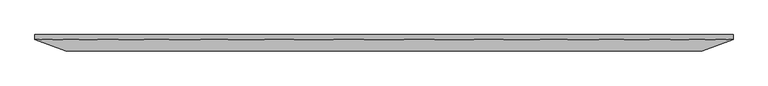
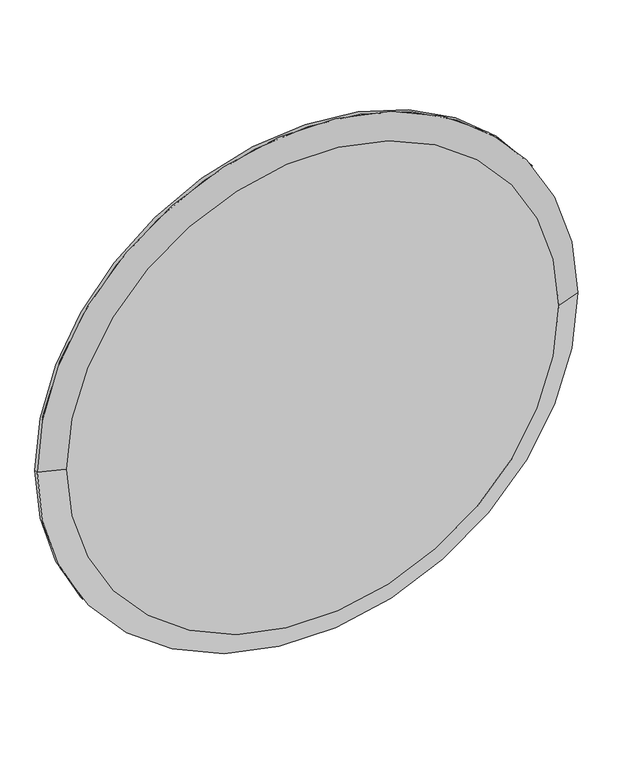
"""IFC4 building model written with IfcOpenShell, lengths in millimetres: proxy geometry, GRADIENT^TABLE 1_OCTAGON LEGS-WORKSURFACE."""

from ifc_helpers import new_model, si_unit, frame, origin, place, context, project, spatial, polyline, circle_curve, source, transform, mapped, element, save
from ifc_brep_helpers import plane_surface, cylinder_surface, revolved_surface, advanced_brep


def generic_models_93175ff0(model_context):
    return source(origin(), model_context, "Body", "AdvancedBrep", [
        advanced_brep(
        [(723.9, 733.425, 0.0), (723.9, 742.95, 0.0), (-647.7, 742.95, 0.0), (-647.7, 733.425, 0.0), (-586.6373144, 711.2, 0.0), (662.8373144, 711.2, 0.0)],
        [
            (0, 1),
            (1, 2, circle_curve(frame((38.1, 742.95, 0.0), z_axis=(0.0, -1.0, 0.0), x_axis=(1.0, 0.0, 0.0)), 685.8)),
            (2, 3),
            (3, 0, circle_curve(frame((38.1, 733.425, 0.0), z_axis=(0.0, 1.0, 0.0), x_axis=(1.0, 0.0, 0.0)), 685.8)),
            (4, 3),
            (3, 0, circle_curve(frame((38.1, 733.425, 0.0), z_axis=(0.0, -1.0, 0.0), x_axis=(1.0, 0.0, 0.0)), 685.8)),
            (0, 5),
            (5, 4, circle_curve(frame((38.1, 711.2, 0.0), z_axis=(0.0, 1.0, 0.0), x_axis=(1.0, 0.0, 0.0)), 624.7373144)),
            (4, 5, circle_curve(frame((38.1, 711.2, 0.0), z_axis=(0.0, 1.0, 0.0), x_axis=(-1.0, 0.0, 0.0)), 624.7373144)),
            (2, 1, circle_curve(frame((38.1, 742.95, 0.0), z_axis=(0.0, -1.0, 0.0), x_axis=(1.0, 0.0, 0.0)), 685.8)),
        ],
        [
            cylinder_surface(frame((38.1, 711.2, 0.0), z_axis=(0.0, 1.0, 0.0), x_axis=(1.0, 0.0, 0.0)), 685.8),
            revolved_surface(polyline([(-586.6373143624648, 711.2, 0.0), (-647.7, 733.425, 0.0)]), (38.1, 483.8142133, 0.0), (0.0, 1.0, 0.0)),
            plane_surface(frame((38.1, 711.2, 0.0), z_axis=(0.0, -1.0, 0.0), x_axis=(0.0, 0.0, 1.0))),
            plane_surface(frame((38.1, 742.95, 0.0), z_axis=(0.0, 1.0, 0.0), x_axis=(0.0, 0.0, 1.0))),
        ],
        [
            (0, [[1, 2, 3, 4]]),
            (1, [[5, 6, 7, 8]]),
            (1, [[-5, 9, -7, -4]]),
            (0, [[-1, -6, -3, 10]]),
            (2, [[-8, -9]]),
            (3, [[-10, -2]]),
        ],
    ),
    ])


if __name__ == "__main__":
    model = new_model("IFC4")
    model_context = context("Model", 3, world=origin())
    ifc_project = project(units=[si_unit("LENGTHUNIT", "METRE", prefix="MILLI")], contexts=[model_context])
    site = spatial("IfcSite", under=ifc_project)
    building = spatial("IfcBuilding", under=site)
    placement = place(None, origin())
    generic_models_shape = generic_models_93175ff0(model_context)
    element("IfcBuildingElementProxy", 1, Name="GRADIENT^TABLE 1_OCTAGON LEGS-WORKSURFACE", ObjectType="GRADIENT^TABLE 1_OCTAGON LEGS-WORKSURFACE", at=placement, inside=building, context=model_context, shape_type="MappedRepresentation", body=[
        mapped(generic_models_shape, transform((0.0, 0.0, 0.0), x_axis=(1.0, 0.0, 0.0), y_axis=(0.0, 1.0, 0.0), z_axis=(0.0, 0.0, 1.0))),
    ])
    save(model, "model.ifc")
